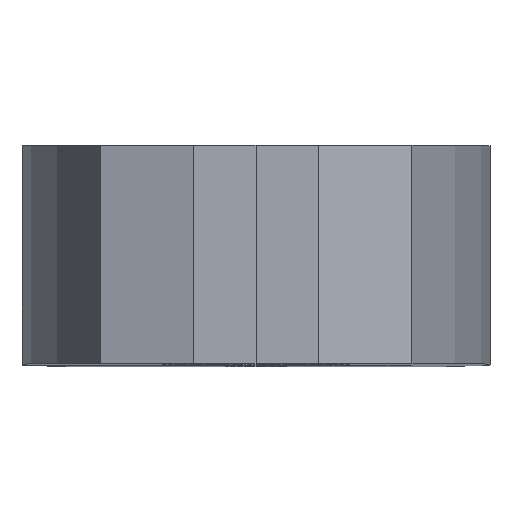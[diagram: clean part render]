
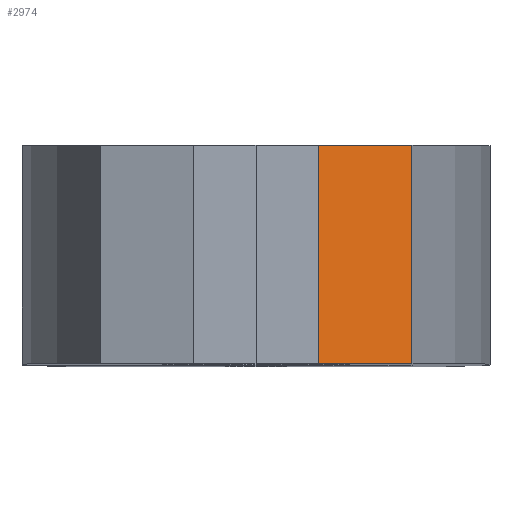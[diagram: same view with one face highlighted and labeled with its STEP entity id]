
A CAD part, top view. The second image highlights one B-rep face of the part: STEP entity #2974.
In plain terms, the highlighted planar face has unit normal (0.259, 0, 0.966).
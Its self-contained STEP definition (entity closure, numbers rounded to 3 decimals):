
#16 = AXIS2_PLACEMENT_3D ( 'NONE', #1749, #2217, #788 ) ;
#602 = CARTESIAN_POINT ( 'NONE',  ( 2., 7., 29. ) ) ;
#618 = LINE ( 'NONE', #1308, #1334 ) ;
#774 = DIRECTION ( 'NONE',  ( 0.966, 0., -0.259 ) ) ;
#788 = DIRECTION ( 'NONE',  ( -0.966, 0., 0.259 ) ) ;
#855 = EDGE_CURVE ( 'NONE', #2836, #898, #1470, .T. ) ;
#858 = ORIENTED_EDGE ( 'NONE', *, *, #933, .T. ) ;
#876 = CARTESIAN_POINT ( 'NONE',  ( 5., 3.5, 28.196 ) ) ;
#898 = VERTEX_POINT ( 'NONE', #1054 ) ;
#914 = LINE ( 'NONE', #3076, #2175 ) ;
#933 = EDGE_CURVE ( 'NONE', #3087, #1413, #618, .T. ) ;
#1054 = CARTESIAN_POINT ( 'NONE',  ( 5., 0., 28.196 ) ) ;
#1129 = EDGE_LOOP ( 'NONE', ( #1637, #2155, #1365, #858 ) ) ;
#1161 = LINE ( 'NONE', #2913, #2887 ) ;
#1308 = CARTESIAN_POINT ( 'NONE',  ( 2., 3.5, 29. ) ) ;
#1334 = VECTOR ( 'NONE', #2245, 1000. ) ;
#1365 = ORIENTED_EDGE ( 'NONE', *, *, #2772, .F. ) ;
#1413 = VERTEX_POINT ( 'NONE', #2301 ) ;
#1470 = LINE ( 'NONE', #876, #2736 ) ;
#1637 = ORIENTED_EDGE ( 'NONE', *, *, #2539, .T. ) ;
#1653 = DIRECTION ( 'NONE',  ( 0.966, 0., -0.259 ) ) ;
#1749 = CARTESIAN_POINT ( 'NONE',  ( 5., 0., 28.196 ) ) ;
#1976 = PLANE ( 'NONE',  #16 ) ;
#2155 = ORIENTED_EDGE ( 'NONE', *, *, #855, .F. ) ;
#2175 = VECTOR ( 'NONE', #1653, 1000. ) ;
#2197 = FACE_OUTER_BOUND ( 'NONE', #1129, .T. ) ;
#2217 = DIRECTION ( 'NONE',  ( -0.259, 0., -0.966 ) ) ;
#2245 = DIRECTION ( 'NONE',  ( 0., -1., 0. ) ) ;
#2301 = CARTESIAN_POINT ( 'NONE',  ( 2., 0., 29. ) ) ;
#2539 = EDGE_CURVE ( 'NONE', #1413, #898, #914, .T. ) ;
#2555 = DIRECTION ( 'NONE',  ( 0., -1., 0. ) ) ;
#2736 = VECTOR ( 'NONE', #2555, 1000. ) ;
#2772 = EDGE_CURVE ( 'NONE', #3087, #2836, #1161, .T. ) ;
#2836 = VERTEX_POINT ( 'NONE', #2882 ) ;
#2882 = CARTESIAN_POINT ( 'NONE',  ( 5., 7., 28.196 ) ) ;
#2887 = VECTOR ( 'NONE', #774, 1000. ) ;
#2913 = CARTESIAN_POINT ( 'NONE',  ( 2., 7., 29. ) ) ;
#2974 = ADVANCED_FACE ( 'NONE', ( #2197 ), #1976, .F. ) ;
#3076 = CARTESIAN_POINT ( 'NONE',  ( 3.5, 0., 28.598 ) ) ;
#3087 = VERTEX_POINT ( 'NONE', #602 ) ;
